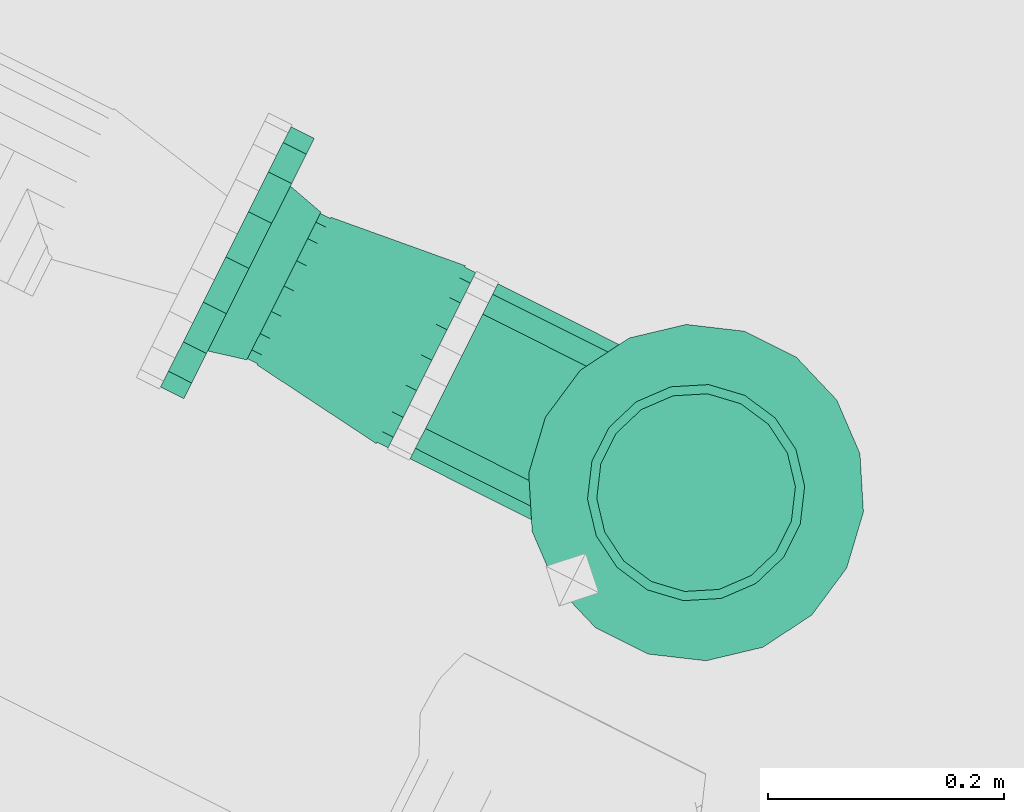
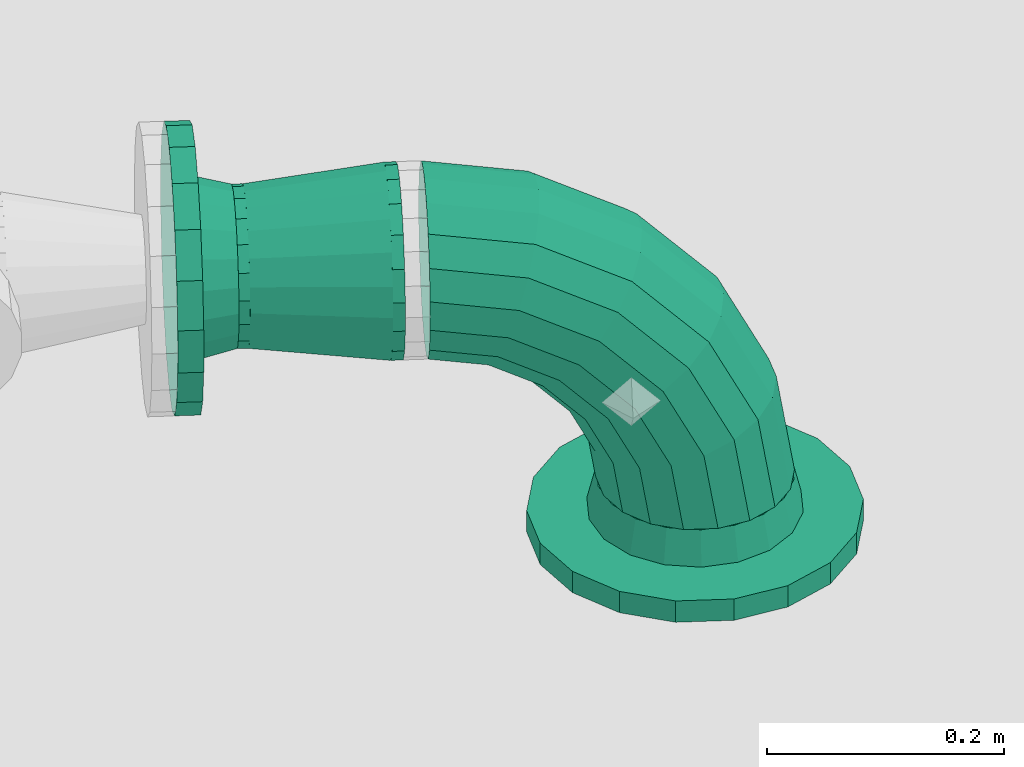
# One storey, part 100 of 206: 3 flow fittings, 1 flow segment.
"""IFC2X3 building model written with IfcOpenShell, lengths in metres."""

import ifcopenshell
import ifcopenshell.guid

model = None  # the IFC model being written
_history = None  # IfcOwnerHistory: only IFC2X3 demands one
_inside = {}  # id of a spatial element -> (the spatial element, [elements in it])
_under = {}  # id of a project, library or spatial element -> (it, [spatial elements below it])
_declared = {}  # id of a project -> (the project, [libraries it declares])
_typed = {}  # id of a type object -> (the type object, [elements of that type])
_made_of = {}  # id of a material, layer set ... -> (it, [elements and type objects made of it])


def new_model(schema):
    """Start an empty IFC model of exactly this schema.

    Asked for "IFC4X3", IfcOpenShell would pick the latest addendum, in which some entities
    have other attributes; the version numbers below select the first issue.
    IFC2X3 requires an IfcOwnerHistory on every rooted entity: one is made here for all.
    """
    global model, _history
    if schema == "IFC4X3":
        model = ifcopenshell.file(schema_version=(4, 3, 0, 0))
    else:
        model = ifcopenshell.file(schema=schema)
    _inside.clear()
    _under.clear()
    _declared.clear()
    _typed.clear()
    _made_of.clear()
    _history = None
    if model.schema == "IFC2X3":
        org = make("IfcOrganization", Name="unknown")
        user = make(
            "IfcPersonAndOrganization",
            ThePerson=make("IfcPerson", FamilyName="unknown"),
            TheOrganization=org,
        )
        app = make(
            "IfcApplication",
            ApplicationDeveloper=org,
            Version="unknown",
            ApplicationFullName="unknown",
            ApplicationIdentifier="unknown",
        )
        _history = make(
            "IfcOwnerHistory",
            OwningUser=user,
            OwningApplication=app,
            ChangeAction="ADDED",
            CreationDate=0,
        )
    return model


def make(cls, **values):
    """One entity of the class cls with the attributes given. An attribute that is None is left unset."""
    return model.create_entity(
        cls, **{name: value for name, value in values.items() if value is not None}
    )


def rooted(cls, **values):
    """An entity with a GlobalId (a new one), such as an element, a storey or a relation."""
    return make(cls, GlobalId=ifcopenshell.guid.new(), OwnerHistory=_history, **values)


def si_unit(unit_type, name, prefix=None):
    """IfcSIUnit, for example si_unit("LENGTHUNIT", "METRE", prefix="MILLI")."""
    return make("IfcSIUnit", UnitType=unit_type, Prefix=prefix, Name=name)


def derived_unit(unit_type, elements):
    """IfcDerivedUnit: a product of units, each with its exponent."""
    return make(
        "IfcDerivedUnit",
        Elements=[
            make("IfcDerivedUnitElement", Unit=unit, Exponent=power)
            for unit, power in elements
        ],
        UnitType=unit_type,
    )


def assignment(units):
    """IfcUnitAssignment: the units of a project."""
    return None if units is None else make("IfcUnitAssignment", Units=units)


def point(xyz):
    """IfcCartesianPoint."""
    return None if xyz is None else make("IfcCartesianPoint", Coordinates=xyz)


def direction(xyz):
    """IfcDirection."""
    return None if xyz is None else make("IfcDirection", DirectionRatios=xyz)


def frame(location, z_axis=None, x_axis=None):
    """IfcAxis2Placement3D, a coordinate frame: its origin and axes. An axis left out is left unset."""
    return make(
        "IfcAxis2Placement3D",
        Location=point(location),
        Axis=direction(z_axis),
        RefDirection=direction(x_axis),
    )


def origin():
    """The frame at (0, 0, 0) with its axes left unset."""
    return frame((0.0, 0.0, 0.0))


def place(relative_to, where):
    """IfcLocalPlacement: puts the frame where relative to a parent placement (None: the world)."""
    return make(
        "IfcLocalPlacement", PlacementRelTo=relative_to, RelativePlacement=where
    )


def context(
    kind, dimensions, precision=None, world=None, true_north=None, identifier=None
):
    """IfcGeometricRepresentationContext, for example the 3D "Model" context."""
    return make(
        "IfcGeometricRepresentationContext",
        ContextIdentifier=identifier,
        ContextType=kind,
        CoordinateSpaceDimension=dimensions,
        Precision=precision,
        WorldCoordinateSystem=world,
        TrueNorth=true_north,
    )


def subcontext(parent, identifier, kind, view, scale=None):
    """IfcGeometricRepresentationSubContext, for example "Body" below "Model"."""
    return make(
        "IfcGeometricRepresentationSubContext",
        ContextIdentifier=identifier,
        ContextType=kind,
        ParentContext=parent,
        TargetScale=scale,
        TargetView=view,
    )


def project(units=None, contexts=None):
    """IfcProject with its units and contexts."""
    return rooted(
        "IfcProject",
        Name="project",
        RepresentationContexts=contexts,
        UnitsInContext=assignment(units),
    )


def spatial(cls, under=None, at=None, **own):
    """A site, building, storey or space (cls), placed at a placement, below another one or the project."""
    s = rooted(cls, ObjectPlacement=at, **own)
    if under is not None:
        _under.setdefault(under.id(), (under, []))[1].append(s)
    return s


def faces_of(points, faces, orient=None, outer=None):
    """IfcFace entities. A face is a list of loops; a loop is a list of indices into points, from 0.

    orient and outer hold one flag for each loop. By default every Orientation is true, the
    first loop of a face is its IfcFaceOuterBound and the others are IfcFaceBound.
    """
    made = []
    for i, loops in enumerate(faces):
        bounds = []
        for j, loop in enumerate(loops):
            is_outer = j == 0 if outer is None else outer[i][j]
            bounds.append(
                make(
                    "IfcFaceOuterBound" if is_outer else "IfcFaceBound",
                    Bound=make("IfcPolyLoop", Polygon=[points[k] for k in loop]),
                    Orientation=True if orient is None else orient[i][j],
                )
            )
        made.append(make("IfcFace", Bounds=bounds))
    return made


def face_set(faces, orient=None, outer=None):
    """The faces of one IfcConnectedFaceSet. surface_model builds it on its shared points."""
    return ("IfcConnectedFaceSet", faces, orient, outer)


def surface_model(cls, points, shells):
    """IfcFaceBasedSurfaceModel or IfcShellBasedSurfaceModel (cls): surfaces that need not close."""
    shared = [point(p) for p in points]
    made = [make(c, CfsFaces=faces_of(shared, fs, o, b)) for c, fs, o, b in shells]
    if cls == "IfcFaceBasedSurfaceModel":
        return make(cls, FbsmFaces=made)
    return make(cls, SbsmBoundary=made)


def shape(context_of_items, identifier, shape_type, items):
    """IfcShapeRepresentation: the items that make up one representation, for example the "Body"."""
    return make(
        "IfcShapeRepresentation",
        ContextOfItems=context_of_items,
        RepresentationIdentifier=identifier,
        RepresentationType=shape_type,
        Items=items,
    )


def source(mapping_origin, context_of_items, identifier, shape_type, items):
    """IfcRepresentationMap: a shape defined once, which mapped items show again and again."""
    return make(
        "IfcRepresentationMap",
        MappingOrigin=mapping_origin,
        MappedRepresentation=shape(context_of_items, identifier, shape_type, items),
    )


def transform(
    local_origin,
    x_axis=None,
    y_axis=None,
    z_axis=None,
    scale=None,
    scale2=None,
    scale3=None,
    uniform=True,
):
    """IfcCartesianTransformationOperator3D, or its non-uniform kind. x_axis, y_axis, z_axis: its Axis1, 2, 3."""
    if uniform:
        return make(
            "IfcCartesianTransformationOperator3D",
            Axis1=direction(x_axis),
            Axis2=direction(y_axis),
            LocalOrigin=point(local_origin),
            Scale=scale,
            Axis3=direction(z_axis),
        )
    return make(
        "IfcCartesianTransformationOperator3DnonUniform",
        Axis1=direction(x_axis),
        Axis2=direction(y_axis),
        LocalOrigin=point(local_origin),
        Scale=scale,
        Axis3=direction(z_axis),
        Scale2=scale2,
        Scale3=scale3,
    )


def mapped(mapping_source, mapping_target):
    """IfcMappedItem: shows the shape of a source again, moved by a transform."""
    return make(
        "IfcMappedItem", MappingSource=mapping_source, MappingTarget=mapping_target
    )


def material(Name=None, Category=None):
    """IfcMaterial."""
    return make("IfcMaterial", Name=Name, Category=Category)


def made_of(thing, what):
    """Note that an element or type object is made of a material, layer set ...; save() writes the relation."""
    if what is not None:
        _made_of.setdefault(what.id(), (what, []))[1].append(thing)
    return thing


def type_object(cls, material=None, **own):
    """A type object (cls), such as IfcWallType, which elements share."""
    return made_of(rooted(cls, **own), material)


def type_shapes(of_type, sources):
    """Give a type object the sources (RepresentationMaps) that its elements show as mapped items."""
    of_type.RepresentationMaps = sources


def element(
    cls,
    number,
    at=None,
    inside=None,
    cuts=None,
    type_object=None,
    material=None,
    context=None,
    identifier="Body",
    shape_type=None,
    held_by="IfcProductDefinitionShape",
    body=None,
    shapes=None,
    **own,
):
    """One element of the class cls, such as IfcWall. Its Tag is "e" and its number.

    at: its placement. inside: the storey or other place that contains it. cuts: it is an
    opening in that element (IfcRelVoidsElement). A single representation is given by context,
    identifier, shape_type and body (its items); several are given by shapes. held_by: the class
    of the entity that holds the representations. save() writes the other relations.
    """
    e = rooted(cls, Tag="e%d" % number, ObjectPlacement=at, **own)
    if body is not None:
        shapes = [shape(context, identifier, shape_type, body)]
    if shapes is not None:
        e.Representation = make(held_by, Representations=shapes)
    if inside is not None:
        _inside.setdefault(inside.id(), (inside, []))[1].append(e)
    if cuts is not None:
        rooted(
            "IfcRelVoidsElement", RelatingBuildingElement=cuts, RelatedOpeningElement=e
        )
    if type_object is not None:
        _typed.setdefault(type_object.id(), (type_object, []))[1].append(e)
    return made_of(e, material)


def aggregate(whole, parts):
    """IfcRelAggregates: a whole, such as a stair, and the parts it consists of."""
    return rooted("IfcRelAggregates", RelatingObject=whole, RelatedObjects=parts)


def save(model, path):
    """Write the relations noted so far, then the file.

    IfcRelAggregates (storeys below a building ...), IfcRelContainedInSpatialStructure (elements
    in a storey), IfcRelDefinesByType, IfcRelAssociatesMaterial and IfcRelDeclares: one each for
    every whole, place, type object, material and project.
    """
    for whole, parts in _under.values():
        aggregate(whole, parts)
    for where, things in _inside.values():
        rooted(
            "IfcRelContainedInSpatialStructure",
            RelatedElements=things,
            RelatingStructure=where,
        )
    for kind, things in _typed.values():
        rooted("IfcRelDefinesByType", RelatedObjects=things, RelatingType=kind)
    for what, things in _made_of.values():
        rooted("IfcRelAssociatesMaterial", RelatedObjects=things, RelatingMaterial=what)
    for by, libraries in _declared.values():
        rooted("IfcRelDeclares", RelatingContext=by, RelatedDefinitions=libraries)
    model.write(path)


model = new_model("IFC2X3")

# Units and contexts
model_context = context("Model", 3, precision=5.2338327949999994e-05, world=origin(), true_north=direction((0.0, 1.0)))
body_context = subcontext(model_context, "Body", "Model", "MODEL_VIEW")
ifc_project = project(units=[si_unit("LENGTHUNIT", "METRE"), si_unit("AREAUNIT", "SQUARE_METRE"), si_unit("VOLUMEUNIT", "CUBIC_METRE"), si_unit("MASSUNIT", "GRAM", prefix="KILO"), si_unit("PLANEANGLEUNIT", "RADIAN"), derived_unit("THERMALTRANSMITTANCEUNIT", [(si_unit("MASSUNIT", "GRAM", prefix="KILO"), 1), (si_unit("THERMODYNAMICTEMPERATUREUNIT", "KELVIN"), -1), (si_unit("TIMEUNIT", "SECOND"), -3)])], contexts=[model_context])

# Site, building, storey
site_placement = place(None, frame((0.0, 0.0, 0.0), z_axis=(0.0, 0.0, 1.0), x_axis=(0.8939966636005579, -0.4480736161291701, 0.0)))
site = spatial("IfcSite", under=ifc_project, at=site_placement, Name="Default", CompositionType="ELEMENT")
building_placement = place(site_placement, origin())
building = spatial("IfcBuilding", under=site, at=building_placement, CompositionType="ELEMENT")
storey_placement = place(building_placement, origin())
storey = spatial("IfcBuildingStorey", under=building, at=storey_placement, Name="Erdgeschoss", CompositionType="ELEMENT", Elevation=0.0)

# Flow fitting
ifc_material = material(Name="IfcSurfaceStyle #1741")
distribution_element_type_1 = type_object("IfcDistributionElementType", Name="Flansch 303653:Flansch 303653", material=ifc_material)
shared_shape_1 = source(origin(), body_context, "Body", "SurfaceModel", [
    surface_model("IfcFaceBasedSurfaceModel", [(21.298447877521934, 5.395961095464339, 2.07), (21.307041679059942, 5.347223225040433, 2.07), (21.307041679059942, 5.347223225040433, 2.0919999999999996), (21.298447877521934, 5.395961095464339, 2.0919999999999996), (21.331786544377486, 5.304363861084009, 2.07), (21.331786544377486, 5.304363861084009, 2.0919999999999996), (21.369697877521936, 5.272552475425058, 2.07), (21.369697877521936, 5.272552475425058, 2.0919999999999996), (21.416203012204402, 5.2556259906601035, 2.07), (21.416203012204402, 5.2556259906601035, 2.0919999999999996), (21.465692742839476, 5.255625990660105, 2.07), (21.465692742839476, 5.255625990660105, 2.0919999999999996), (21.51219787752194, 5.272552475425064, 2.07), (21.51219787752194, 5.272552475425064, 2.0919999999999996), (21.55010921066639, 5.304363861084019, 2.07), (21.55010921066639, 5.304363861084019, 2.0919999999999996), (21.57485407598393, 5.347223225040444, 2.07), (21.57485407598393, 5.347223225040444, 2.0919999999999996), (21.58344787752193, 5.395961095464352, 2.07), (21.58344787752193, 5.395961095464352, 2.0919999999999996), (21.57485407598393, 5.444698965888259, 2.07), (21.57485407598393, 5.444698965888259, 2.0919999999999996), (21.55010921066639, 5.487558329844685, 2.07), (21.55010921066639, 5.487558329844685, 2.0919999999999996), (21.51219787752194, 5.519369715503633, 2.07), (21.51219787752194, 5.519369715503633, 2.0919999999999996), (21.465692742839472, 5.536296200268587, 2.07), (21.465692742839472, 5.536296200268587, 2.0919999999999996), (21.4162030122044, 5.536296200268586, 2.07), (21.4162030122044, 5.536296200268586, 2.0919999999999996), (21.369697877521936, 5.519369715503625, 2.07), (21.369697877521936, 5.519369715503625, 2.0919999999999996), (21.331786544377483, 5.487558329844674, 2.07), (21.331786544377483, 5.487558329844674, 2.0919999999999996), (21.30704167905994, 5.444698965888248, 2.07), (21.30704167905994, 5.444698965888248, 2.0919999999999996), (21.440947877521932, 5.3959610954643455, 2.091999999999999), (21.440947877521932, 5.303961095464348, 2.091999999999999), (21.472413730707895, 5.309509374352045, 2.091999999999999), (21.46972887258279, 5.316885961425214, 2.1249999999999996), (21.440947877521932, 5.311811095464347, 2.125), (21.5000843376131, 5.325485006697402, 2.0919999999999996), (21.495038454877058, 5.331498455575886, 2.125), (21.5206222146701, 5.349961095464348, 2.092), (21.5138239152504, 5.353886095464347, 2.1250000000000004), (21.531550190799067, 5.37998546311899, 2.0920000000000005), (21.523819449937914, 5.381348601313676, 2.125000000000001), (21.531550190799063, 5.411936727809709, 2.091999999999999), (21.523819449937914, 5.410573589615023, 2.1249999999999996), (21.5206222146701, 5.44196109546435, 2.0919999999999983), (21.513823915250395, 5.438036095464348, 2.1249999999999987), (21.500084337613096, 5.466437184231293, 2.0919999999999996), (21.495038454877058, 5.460423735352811, 2.125), (21.472413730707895, 5.482412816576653, 2.0919999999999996), (21.46972887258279, 5.475036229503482, 2.125), (21.44094787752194, 5.487961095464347, 2.0919999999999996), (21.440947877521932, 5.480111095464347, 2.125), (21.409482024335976, 5.482412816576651, 2.0919999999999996), (21.41216688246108, 5.4750362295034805, 2.125), (21.38181141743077, 5.466437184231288, 2.0919999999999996), (21.386857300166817, 5.460423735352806, 2.125), (21.361273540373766, 5.441961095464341, 2.0919999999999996), (21.368071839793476, 5.438036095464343, 2.125), (21.350345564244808, 5.4119367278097, 2.0919999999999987), (21.358076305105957, 5.410573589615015, 2.124999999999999), (21.350345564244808, 5.379985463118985, 2.091999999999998), (21.358076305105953, 5.38134860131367, 2.1249999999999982), (21.361273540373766, 5.349961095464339, 2.0920000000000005), (21.368071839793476, 5.353886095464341, 2.125000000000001), (21.38181141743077, 5.325485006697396, 2.0920000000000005), (21.386857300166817, 5.331498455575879, 2.125000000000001), (21.409482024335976, 5.30950937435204, 2.0919999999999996), (21.412166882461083, 5.31688596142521, 2.125)], [face_set([[[0, 1, 2, 3]], [[1, 4, 5, 2]], [[4, 6, 7, 5]], [[6, 8, 9, 7]], [[8, 10, 11, 9]], [[10, 12, 13, 11]], [[12, 14, 15, 13]], [[14, 16, 17, 15]], [[16, 18, 19, 17]], [[18, 20, 21, 19]], [[20, 22, 23, 21]], [[22, 24, 25, 23]], [[24, 26, 27, 25]], [[26, 28, 29, 27]], [[28, 30, 31, 29]], [[30, 32, 33, 31]], [[32, 34, 35, 33]], [[34, 0, 3, 35]], [[36, 35, 3]], [[36, 33, 35]], [[36, 31, 33]], [[36, 29, 31]], [[36, 27, 29]], [[36, 25, 27]], [[36, 23, 25]], [[36, 21, 23]], [[36, 19, 21]], [[36, 17, 19]], [[36, 15, 17]], [[36, 13, 15]], [[36, 11, 13]], [[36, 9, 11]], [[36, 7, 9]], [[36, 5, 7]], [[36, 2, 5]], [[36, 3, 2]], [[37, 38, 39, 40]], [[38, 41, 42, 39]], [[41, 43, 44, 42]], [[43, 45, 46, 44]], [[45, 47, 48, 46]], [[47, 49, 50, 48]], [[49, 51, 52, 50]], [[51, 53, 54, 52]], [[53, 55, 56, 54]], [[55, 57, 58, 56]], [[57, 59, 60, 58]], [[59, 61, 62, 60]], [[61, 63, 64, 62]], [[63, 65, 66, 64]], [[65, 67, 68, 66]], [[67, 69, 70, 68]], [[69, 71, 72, 70]], [[71, 37, 40, 72]]])]),
])
type_shapes(distribution_element_type_1, [shared_shape_1])
flow_fitting_1_placement = place(storey_placement, origin())
element("IfcFlowFitting", 1, at=flow_fitting_1_placement, inside=storey, type_object=distribution_element_type_1, material=ifc_material, Name="Flansch", ObjectType="Flansch", context=body_context, shape_type="MappedRepresentation", body=[
    mapped(shared_shape_1, transform((0.0, 0.0, 0.0), scale=1.0)),
])

# Flow segment
distribution_element_type_2 = type_object("IfcDistributionElementType", Name="Rohrbogen 305384:Rohrbogen 305384", material=ifc_material)
shared_shape_2 = source(origin(), body_context, "Body", "SurfaceModel", [
    surface_model("IfcFaceBasedSurfaceModel", [(21.211947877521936, 5.395961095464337, 2.4381500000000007), (21.211947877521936, 5.367180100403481, 2.433075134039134), (21.307148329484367, 5.367180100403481, 2.417996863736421), (21.30871654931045, 5.3959610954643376, 2.422823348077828), (21.393029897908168, 5.367180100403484, 2.374238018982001), (21.39601282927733, 5.39596109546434, 2.3783436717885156), (21.46118589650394, 5.367180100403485, 2.3060820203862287), (21.46529154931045, 5.395961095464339, 2.309064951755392), (21.504944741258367, 5.367180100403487, 2.2202004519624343), (21.509771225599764, 5.395961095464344, 2.2217686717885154), (21.52002301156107, 5.367180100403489, 2.1250000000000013), (21.525097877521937, 5.395961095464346, 2.1250000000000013), (21.211947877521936, 5.341870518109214, 2.4184626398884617), (21.30263282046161, 5.341870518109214, 2.404099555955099), (21.384440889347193, 5.341870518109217, 2.362416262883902), (21.44936414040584, 5.341870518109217, 2.2974930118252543), (21.49104743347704, 5.341870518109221, 2.2156849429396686), (21.5054105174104, 5.341870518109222, 2.125000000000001), (21.211947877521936, 5.323085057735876, 2.3960750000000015), (21.295714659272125, 5.323085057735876, 2.3828076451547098), (21.37128176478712, 5.32308505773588, 2.344304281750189), (21.43125215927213, 5.323085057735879, 2.2843338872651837), (21.469755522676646, 5.32308505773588, 2.2087667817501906), (21.483022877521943, 5.3230850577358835, 2.124999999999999), (21.211947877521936, 5.313089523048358, 2.3686124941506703), (21.287228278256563, 5.31308952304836, 2.356689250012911), (21.35513970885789, 5.313089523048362, 2.32208664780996), (21.409034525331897, 5.313089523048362, 2.268191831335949), (21.44363712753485, 5.313089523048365, 2.200280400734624), (21.45556037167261, 5.313089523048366, 2.124999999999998), (21.211947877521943, 5.313089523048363, 2.3393875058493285), (21.27819726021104, 5.313089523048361, 2.3288946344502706), (21.337961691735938, 5.313089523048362, 2.298443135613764), (21.385391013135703, 5.313089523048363, 2.251013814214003), (21.415842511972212, 5.313089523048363, 2.191249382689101), (21.426335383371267, 5.313089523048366, 2.1250000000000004), (21.211947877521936, 5.323085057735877, 2.311925), (21.269710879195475, 5.323085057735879, 2.302776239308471), (21.32181963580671, 5.323085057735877, 2.2762255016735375), (21.363173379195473, 5.32308505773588, 2.234871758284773), (21.38972411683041, 5.32308505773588, 2.1827630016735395), (21.398872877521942, 5.323085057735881, 2.1250000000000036), (21.211947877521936, 5.341870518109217, 2.289537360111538), (21.262792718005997, 5.341870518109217, 2.2814843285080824), (21.30866051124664, 5.34187051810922, 2.2581135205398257), (21.345061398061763, 5.3418705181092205, 2.221712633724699), (21.368432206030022, 5.341870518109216, 2.1758448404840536), (21.376485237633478, 5.341870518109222, 2.1249999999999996), (21.211947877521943, 5.367180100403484, 2.274924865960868), (21.258277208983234, 5.367180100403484, 2.2675870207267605), (21.300071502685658, 5.367180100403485, 2.246291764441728), (21.33323964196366, 5.367180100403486, 2.2131236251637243), (21.354534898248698, 5.367180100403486, 2.1713293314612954), (21.361872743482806, 5.367180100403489, 2.1250000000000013), (21.211947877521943, 5.395961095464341, 2.2698500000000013), (21.25670898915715, 5.39596109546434, 2.2627605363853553), (21.2970885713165, 5.395961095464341, 2.2421861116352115), (21.329133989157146, 5.395961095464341, 2.210140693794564), (21.34970841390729, 5.395961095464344, 2.16976111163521), (21.356797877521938, 5.3959610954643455, 2.125), (21.211947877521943, 5.4247420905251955, 2.2749248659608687), (21.258277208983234, 5.4247420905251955, 2.267587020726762), (21.300071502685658, 5.4247420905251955, 2.24629176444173), (21.33323964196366, 5.424742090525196, 2.213123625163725), (21.354534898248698, 5.424742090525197, 2.1713293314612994), (21.361872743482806, 5.424742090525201, 2.1250000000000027), (21.211947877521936, 5.450051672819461, 2.2895373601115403), (21.262792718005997, 5.450051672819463, 2.281484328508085), (21.30866051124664, 5.450051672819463, 2.2581135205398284), (21.345061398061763, 5.450051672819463, 2.2217126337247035), (21.368432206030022, 5.450051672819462, 2.1758448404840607), (21.376485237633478, 5.450051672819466, 2.1250000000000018), (21.211947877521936, 5.4688371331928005, 2.3119250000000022), (21.269710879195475, 5.4688371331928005, 2.302776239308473), (21.32181963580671, 5.4688371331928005, 2.2762255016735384), (21.363173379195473, 5.468837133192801, 2.2348717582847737), (21.38972411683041, 5.468837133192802, 2.1827630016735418), (21.398872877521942, 5.468837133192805, 2.125000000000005), (21.211947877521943, 5.478832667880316, 2.339387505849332), (21.27819726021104, 5.478832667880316, 2.328894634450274), (21.337961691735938, 5.478832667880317, 2.298443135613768), (21.385391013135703, 5.4788326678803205, 2.251013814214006), (21.415842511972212, 5.478832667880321, 2.191249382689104), (21.426335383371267, 5.478832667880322, 2.125000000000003), (21.211947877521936, 5.478832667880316, 2.3686124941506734), (21.287228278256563, 5.478832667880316, 2.3566892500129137), (21.35513970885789, 5.478832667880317, 2.3220866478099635), (21.409034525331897, 5.478832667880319, 2.2681918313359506), (21.44363712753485, 5.47883266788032, 2.2002804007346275), (21.45556037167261, 5.478832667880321, 2.125000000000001), (21.211947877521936, 5.468837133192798, 2.396075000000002), (21.295714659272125, 5.4688371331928, 2.382807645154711), (21.371281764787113, 5.4688371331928, 2.34430428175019), (21.43125215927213, 5.468837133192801, 2.284333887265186), (21.469755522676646, 5.468837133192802, 2.208766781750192), (21.483022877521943, 5.468837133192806, 2.125000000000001), (21.211947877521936, 5.45005167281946, 2.418462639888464), (21.30263282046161, 5.45005167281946, 2.4040995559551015), (21.384440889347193, 5.450051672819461, 2.362416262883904), (21.44936414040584, 5.450051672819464, 2.2974930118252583), (21.49104743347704, 5.450051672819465, 2.215684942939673), (21.505410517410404, 5.450051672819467, 2.1250000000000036), (21.211947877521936, 5.424742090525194, 2.4330751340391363), (21.307148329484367, 5.424742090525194, 2.4179968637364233), (21.393029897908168, 5.424742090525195, 2.374238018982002), (21.46118589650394, 5.4247420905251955, 2.306082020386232), (21.504944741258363, 5.424742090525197, 2.2202004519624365), (21.52002301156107, 5.424742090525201, 2.1250000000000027)], [face_set([[[0, 1, 2, 3]], [[3, 2, 4, 5]], [[5, 4, 6, 7]], [[7, 6, 8, 9]], [[9, 8, 10, 11]], [[1, 12, 13, 2]], [[2, 13, 14, 4]], [[4, 14, 15, 6]], [[6, 15, 16, 8]], [[8, 16, 17, 10]], [[12, 18, 19, 13]], [[13, 19, 20, 14]], [[14, 20, 21, 15]], [[15, 21, 22, 16]], [[16, 22, 23, 17]], [[18, 24, 25, 19]], [[19, 25, 26, 20]], [[20, 26, 27, 21]], [[21, 27, 28, 22]], [[22, 28, 29, 23]], [[24, 30, 31, 25]], [[25, 31, 32, 26]], [[26, 32, 33, 27]], [[27, 33, 34, 28]], [[28, 34, 35, 29]], [[30, 36, 37, 31]], [[31, 37, 38, 32]], [[32, 38, 39, 33]], [[33, 39, 40, 34]], [[34, 40, 41, 35]], [[36, 42, 43, 37]], [[37, 43, 44, 38]], [[38, 44, 45, 39]], [[39, 45, 46, 40]], [[40, 46, 47, 41]], [[42, 48, 49, 43]], [[43, 49, 50, 44]], [[44, 50, 51, 45]], [[45, 51, 52, 46]], [[46, 52, 53, 47]], [[48, 54, 55, 49]], [[49, 55, 56, 50]], [[50, 56, 57, 51]], [[51, 57, 58, 52]], [[52, 58, 59, 53]], [[54, 60, 61, 55]], [[55, 61, 62, 56]], [[56, 62, 63, 57]], [[57, 63, 64, 58]], [[58, 64, 65, 59]], [[60, 66, 67, 61]], [[61, 67, 68, 62]], [[62, 68, 69, 63]], [[63, 69, 70, 64]], [[64, 70, 71, 65]], [[66, 72, 73, 67]], [[67, 73, 74, 68]], [[68, 74, 75, 69]], [[69, 75, 76, 70]], [[70, 76, 77, 71]], [[72, 78, 79, 73]], [[73, 79, 80, 74]], [[74, 80, 81, 75]], [[75, 81, 82, 76]], [[76, 82, 83, 77]], [[78, 84, 85, 79]], [[79, 85, 86, 80]], [[80, 86, 87, 81]], [[81, 87, 88, 82]], [[82, 88, 89, 83]], [[84, 90, 91, 85]], [[85, 91, 92, 86]], [[86, 92, 93, 87]], [[87, 93, 94, 88]], [[88, 94, 95, 89]], [[90, 96, 97, 91]], [[91, 97, 98, 92]], [[92, 98, 99, 93]], [[93, 99, 100, 94]], [[94, 100, 101, 95]], [[96, 102, 103, 97]], [[97, 103, 104, 98]], [[98, 104, 105, 99]], [[99, 105, 106, 100]], [[100, 106, 107, 101]], [[102, 0, 3, 103]], [[103, 3, 5, 104]], [[104, 5, 7, 105]], [[105, 7, 9, 106]], [[106, 9, 11, 107]]])]),
])
type_shapes(distribution_element_type_2, [shared_shape_2])
flow_segment_placement = place(storey_placement, origin())
element("IfcFlowSegment", 2, at=flow_segment_placement, inside=storey, type_object=distribution_element_type_2, material=ifc_material, Name="Rohrbogen", ObjectType="Rohrbogen", context=body_context, shape_type="MappedRepresentation", body=[
    mapped(shared_shape_2, transform((0.0, 0.0, 0.0), scale=1.0)),
])

# Flow fittings
distribution_element_type_3 = type_object("IfcDistributionElementType", Name="Flansch 309281:Flansch 309281", material=ifc_material)
shared_shape_3 = source(origin(), body_context, "Body", "SurfaceModel", [
    surface_model("IfcFaceBasedSurfaceModel", [(20.99598007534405, 5.395961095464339, 2.479), (20.99598007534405, 5.353208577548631, 2.471461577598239), (21.01798007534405, 5.353208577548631, 2.471461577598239), (21.01798007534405, 5.395961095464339, 2.479), (20.99598007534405, 5.315612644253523, 2.449755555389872), (21.01798007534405, 5.315612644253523, 2.449755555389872), (20.99598007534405, 5.287707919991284, 2.4165000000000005), (21.01798007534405, 5.287707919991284, 2.4165000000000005), (20.99598007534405, 5.272860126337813, 2.3757060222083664), (21.01798007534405, 5.272860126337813, 2.3757060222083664), (20.99598007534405, 5.272860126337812, 2.3322939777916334), (21.01798007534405, 5.272860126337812, 2.3322939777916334), (20.99598007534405, 5.287707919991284, 2.2915000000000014), (21.01798007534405, 5.287707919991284, 2.2915000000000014), (20.99598007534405, 5.315612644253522, 2.2582444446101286), (21.01798007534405, 5.315612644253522, 2.2582444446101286), (20.99598007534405, 5.35320857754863, 2.236538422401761), (21.01798007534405, 5.35320857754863, 2.236538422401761), (20.99598007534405, 5.3959610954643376, 2.2290000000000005), (21.01798007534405, 5.3959610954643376, 2.2290000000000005), (20.99598007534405, 5.438713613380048, 2.236538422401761), (21.01798007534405, 5.438713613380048, 2.236538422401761), (20.99598007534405, 5.476309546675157, 2.2582444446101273), (21.01798007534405, 5.476309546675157, 2.2582444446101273), (20.99598007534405, 5.504214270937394, 2.2915), (21.01798007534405, 5.504214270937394, 2.2915), (20.99598007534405, 5.519062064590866, 2.332293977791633), (21.01798007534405, 5.519062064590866, 2.332293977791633), (20.99598007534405, 5.519062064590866, 2.3757060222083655), (21.01798007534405, 5.519062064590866, 2.3757060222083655), (20.99598007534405, 5.5042142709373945, 2.4165), (21.01798007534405, 5.5042142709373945, 2.4165), (20.99598007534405, 5.476309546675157, 2.44975555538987), (21.01798007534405, 5.476309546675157, 2.44975555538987), (20.99598007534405, 5.4387136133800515, 2.471461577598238), (21.01798007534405, 5.4387136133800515, 2.471461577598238), (21.01798007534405, 5.395961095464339, 2.354), (21.01798007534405, 5.317961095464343, 2.353999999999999), (21.01798007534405, 5.322665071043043, 2.327322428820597), (21.05098007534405, 5.330323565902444, 2.330109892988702), (21.05098007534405, 5.326111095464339, 2.3539999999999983), (21.01798007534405, 5.336209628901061, 2.303862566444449), (21.05098007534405, 5.34245289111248, 2.3091012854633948), (21.01798007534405, 5.356961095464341, 2.286450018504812), (21.05098007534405, 5.361036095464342, 2.2935081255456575), (21.01798007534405, 5.382416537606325, 2.277184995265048), (21.05098007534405, 5.383831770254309, 2.2852111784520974), (21.01798007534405, 5.409505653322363, 2.277184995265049), (21.05098007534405, 5.408090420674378, 2.2852111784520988), (21.01798007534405, 5.4349610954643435, 2.286450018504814), (21.05098007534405, 5.430886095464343, 2.293508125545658), (21.01798007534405, 5.455712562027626, 2.303862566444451), (21.05098007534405, 5.449469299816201, 2.3091012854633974), (21.01798007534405, 5.469257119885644, 2.3273224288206), (21.05098007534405, 5.4615986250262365, 2.3301098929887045), (21.01798007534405, 5.473961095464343, 2.354000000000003), (21.05098007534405, 5.465811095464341, 2.354000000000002), (21.01798007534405, 5.469257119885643, 2.380677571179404), (21.05098007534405, 5.4615986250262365, 2.3778901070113), (21.01798007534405, 5.455712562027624, 2.4041374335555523), (21.05098007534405, 5.449469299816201, 2.398898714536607), (21.01798007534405, 5.434961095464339, 2.421549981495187), (21.05098007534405, 5.43088609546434, 2.4144918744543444), (21.01798007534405, 5.409505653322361, 2.4308150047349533), (21.05098007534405, 5.408090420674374, 2.422788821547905), (21.01798007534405, 5.382416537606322, 2.430815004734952), (21.05098007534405, 5.383831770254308, 2.4227888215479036), (21.01798007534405, 5.35696109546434, 2.4215499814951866), (21.05098007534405, 5.361036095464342, 2.414491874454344), (21.01798007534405, 5.33620962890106, 2.4041374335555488), (21.05098007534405, 5.342452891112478, 2.3988987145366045), (21.01798007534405, 5.32266507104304, 2.3806775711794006), (21.05098007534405, 5.330323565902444, 2.377890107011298)], [face_set([[[0, 1, 2, 3]], [[1, 4, 5, 2]], [[4, 6, 7, 5]], [[6, 8, 9, 7]], [[8, 10, 11, 9]], [[10, 12, 13, 11]], [[12, 14, 15, 13]], [[14, 16, 17, 15]], [[16, 18, 19, 17]], [[18, 20, 21, 19]], [[20, 22, 23, 21]], [[22, 24, 25, 23]], [[24, 26, 27, 25]], [[26, 28, 29, 27]], [[28, 30, 31, 29]], [[30, 32, 33, 31]], [[32, 34, 35, 33]], [[34, 0, 3, 35]], [[36, 35, 3]], [[36, 33, 35]], [[36, 31, 33]], [[36, 29, 31]], [[36, 27, 29]], [[36, 25, 27]], [[36, 23, 25]], [[36, 21, 23]], [[36, 19, 21]], [[36, 17, 19]], [[36, 15, 17]], [[36, 13, 15]], [[36, 11, 13]], [[36, 9, 11]], [[36, 7, 9]], [[36, 5, 7]], [[36, 2, 5]], [[36, 3, 2]], [[37, 38, 39, 40]], [[38, 41, 42, 39]], [[41, 43, 44, 42]], [[43, 45, 46, 44]], [[45, 47, 48, 46]], [[47, 49, 50, 48]], [[49, 51, 52, 50]], [[51, 53, 54, 52]], [[53, 55, 56, 54]], [[55, 57, 58, 56]], [[57, 59, 60, 58]], [[59, 61, 62, 60]], [[61, 63, 64, 62]], [[63, 65, 66, 64]], [[65, 67, 68, 66]], [[67, 69, 70, 68]], [[69, 71, 72, 70]], [[71, 37, 40, 72]]])]),
])
type_shapes(distribution_element_type_3, [shared_shape_3])
flow_fitting_2_placement = place(storey_placement, origin())
element("IfcFlowFitting", 3, at=flow_fitting_2_placement, inside=storey, type_object=distribution_element_type_3, material=ifc_material, Name="Flansch", ObjectType="Flansch", context=body_context, shape_type="MappedRepresentation", body=[
    mapped(shared_shape_3, transform((0.0, 0.0, 0.0), scale=1.0)),
])
distribution_element_type_4 = type_object("IfcDistributionElementType", Name="Übergangsstück 309304:Übergangsstück 309304", material=ifc_material)
shared_shape_4 = source(origin(), body_context, "Body", "SurfaceModel", [
    surface_model("IfcFaceBasedSurfaceModel", [(21.05098007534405, 5.395961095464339, 2.42385), (21.05098007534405, 5.372070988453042, 2.4196375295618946), (21.06050924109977, 5.372070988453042, 2.4196375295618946), (21.06050924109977, 5.395961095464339, 2.42385), (21.05098007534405, 5.351062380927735, 2.4075082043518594), (21.06050924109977, 5.351062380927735, 2.4075082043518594), (21.05098007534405, 5.335469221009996, 2.3889250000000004), (21.06050924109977, 5.335469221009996, 2.3889250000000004), (21.05098007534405, 5.327172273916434, 2.366129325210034), (21.06050924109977, 5.327172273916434, 2.366129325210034), (21.05098007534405, 5.327172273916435, 2.3418706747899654), (21.06050924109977, 5.327172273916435, 2.3418706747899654), (21.05098007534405, 5.335469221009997, 2.319075), (21.06050924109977, 5.335469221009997, 2.319075), (21.05098007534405, 5.3510623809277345, 2.30049179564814), (21.06050924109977, 5.3510623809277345, 2.30049179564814), (21.05098007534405, 5.372070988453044, 2.288362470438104), (21.06050924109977, 5.372070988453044, 2.288362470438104), (21.05098007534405, 5.3959610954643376, 2.28415), (21.06050924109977, 5.3959610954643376, 2.28415), (21.05098007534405, 5.419851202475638, 2.2883624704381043), (21.06050924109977, 5.419851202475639, 2.2883624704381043), (21.05098007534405, 5.440859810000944, 2.3004917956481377), (21.06050924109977, 5.440859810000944, 2.3004917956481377), (21.05098007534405, 5.456452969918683, 2.3190749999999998), (21.06050924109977, 5.456452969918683, 2.3190749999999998), (21.05098007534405, 5.464749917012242, 2.341870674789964), (21.06050924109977, 5.464749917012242, 2.341870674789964), (21.05098007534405, 5.46474991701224, 2.366129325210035), (21.06050924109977, 5.46474991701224, 2.366129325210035), (21.05098007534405, 5.456452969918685, 2.3889250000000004), (21.06050924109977, 5.456452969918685, 2.3889250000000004), (21.05098007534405, 5.440859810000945, 2.407508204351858), (21.06050924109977, 5.440859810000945, 2.407508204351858), (21.05098007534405, 5.4198512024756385, 2.419637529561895), (21.06050924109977, 5.4198512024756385, 2.419637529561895), (21.06050924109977, 5.3261110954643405, 2.354), (21.06050924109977, 5.330323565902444, 2.330109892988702), (21.1805208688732, 5.316885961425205, 2.325219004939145), (21.1805208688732, 5.311811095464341, 2.354), (21.06050924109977, 5.3424528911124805, 2.309101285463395), (21.1805208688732, 5.3314984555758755, 2.299909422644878), (21.06050924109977, 5.361036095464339, 2.293508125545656), (21.1805208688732, 5.353886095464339, 2.2811239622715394), (21.06050924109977, 5.383831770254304, 2.2852111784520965), (21.1805208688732, 5.381348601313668, 2.2711284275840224), (21.06050924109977, 5.408090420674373, 2.2852111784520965), (21.1805208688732, 5.410573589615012, 2.271128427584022), (21.06050924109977, 5.43088609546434, 2.293508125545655), (21.1805208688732, 5.438036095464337, 2.281123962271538), (21.06050924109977, 5.449469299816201, 2.309101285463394), (21.1805208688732, 5.460423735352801, 2.2999094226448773), (21.06050924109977, 5.461598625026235, 2.3301098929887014), (21.1805208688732, 5.475036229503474, 2.3252190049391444), (21.06050924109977, 5.465811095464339, 2.354), (21.1805208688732, 5.480111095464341, 2.3539999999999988), (21.06050924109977, 5.4615986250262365, 2.3778901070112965), (21.1805208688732, 5.475036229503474, 2.382780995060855), (21.06050924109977, 5.449469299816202, 2.3988987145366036), (21.1805208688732, 5.460423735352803, 2.408090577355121), (21.06050924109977, 5.430886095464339, 2.4144918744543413), (21.1805208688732, 5.438036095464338, 2.426876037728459), (21.06050924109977, 5.408090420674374, 2.422788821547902), (21.1805208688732, 5.410573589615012, 2.436871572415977), (21.06050924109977, 5.383831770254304, 2.422788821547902), (21.1805208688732, 5.381348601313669, 2.4368715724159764), (21.06050924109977, 5.361036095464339, 2.4144918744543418), (21.1805208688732, 5.35388609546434, 2.426876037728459), (21.06050924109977, 5.3424528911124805, 2.398898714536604), (21.1805208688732, 5.331498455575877, 2.4080905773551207), (21.06050924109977, 5.330323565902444, 2.3778901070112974), (21.1805208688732, 5.316885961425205, 2.382780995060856), (21.1805208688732, 5.395961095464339, 2.438149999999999), (21.1805208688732, 5.367180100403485, 2.4330751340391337), (21.190980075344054, 5.367180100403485, 2.4330751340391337), (21.190980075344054, 5.395961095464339, 2.438149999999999), (21.1805208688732, 5.341870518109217, 2.418462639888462), (21.190980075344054, 5.341870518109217, 2.418462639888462), (21.1805208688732, 5.32308505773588, 2.396075), (21.190980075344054, 5.32308505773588, 2.396075), (21.1805208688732, 5.313089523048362, 2.3686124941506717), (21.190980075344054, 5.313089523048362, 2.3686124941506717), (21.1805208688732, 5.31308952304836, 2.339387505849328), (21.190980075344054, 5.31308952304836, 2.339387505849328), (21.1805208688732, 5.32308505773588, 2.3119249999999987), (21.190980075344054, 5.32308505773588, 2.3119249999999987), (21.1805208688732, 5.341870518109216, 2.289537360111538), (21.190980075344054, 5.341870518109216, 2.289537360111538), (21.1805208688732, 5.367180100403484, 2.2749248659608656), (21.190980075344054, 5.367180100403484, 2.2749248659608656), (21.1805208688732, 5.3959610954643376, 2.26985), (21.190980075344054, 5.3959610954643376, 2.26985), (21.1805208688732, 5.424742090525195, 2.274924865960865), (21.190980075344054, 5.424742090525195, 2.274924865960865), (21.1805208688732, 5.450051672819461, 2.2895373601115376), (21.190980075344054, 5.450051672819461, 2.2895373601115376), (21.1805208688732, 5.4688371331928, 2.3119249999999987), (21.190980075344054, 5.4688371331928, 2.3119249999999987), (21.1805208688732, 5.478832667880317, 2.339387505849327), (21.190980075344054, 5.478832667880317, 2.339387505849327), (21.1805208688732, 5.478832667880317, 2.3686124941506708), (21.190980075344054, 5.478832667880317, 2.3686124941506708), (21.1805208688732, 5.468837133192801, 2.3960750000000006), (21.190980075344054, 5.468837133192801, 2.3960750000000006), (21.1805208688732, 5.450051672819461, 2.4184626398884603), (21.190980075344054, 5.450051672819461, 2.4184626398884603), (21.1805208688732, 5.4247420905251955, 2.4330751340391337), (21.190980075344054, 5.4247420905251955, 2.4330751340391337)], [face_set([[[0, 1, 2, 3]], [[1, 4, 5, 2]], [[4, 6, 7, 5]], [[6, 8, 9, 7]], [[8, 10, 11, 9]], [[10, 12, 13, 11]], [[12, 14, 15, 13]], [[14, 16, 17, 15]], [[16, 18, 19, 17]], [[18, 20, 21, 19]], [[20, 22, 23, 21]], [[22, 24, 25, 23]], [[24, 26, 27, 25]], [[26, 28, 29, 27]], [[28, 30, 31, 29]], [[30, 32, 33, 31]], [[32, 34, 35, 33]], [[34, 0, 3, 35]], [[36, 37, 38, 39]], [[37, 40, 41, 38]], [[40, 42, 43, 41]], [[42, 44, 45, 43]], [[44, 46, 47, 45]], [[46, 48, 49, 47]], [[48, 50, 51, 49]], [[50, 52, 53, 51]], [[52, 54, 55, 53]], [[54, 56, 57, 55]], [[56, 58, 59, 57]], [[58, 60, 61, 59]], [[60, 62, 63, 61]], [[62, 64, 65, 63]], [[64, 66, 67, 65]], [[66, 68, 69, 67]], [[68, 70, 71, 69]], [[70, 36, 39, 71]], [[72, 73, 74, 75]], [[73, 76, 77, 74]], [[76, 78, 79, 77]], [[78, 80, 81, 79]], [[80, 82, 83, 81]], [[82, 84, 85, 83]], [[84, 86, 87, 85]], [[86, 88, 89, 87]], [[88, 90, 91, 89]], [[90, 92, 93, 91]], [[92, 94, 95, 93]], [[94, 96, 97, 95]], [[96, 98, 99, 97]], [[98, 100, 101, 99]], [[100, 102, 103, 101]], [[102, 104, 105, 103]], [[104, 106, 107, 105]], [[106, 72, 75, 107]]])]),
])
type_shapes(distribution_element_type_4, [shared_shape_4])
flow_fitting_3_placement = place(storey_placement, origin())
element("IfcFlowFitting", 4, at=flow_fitting_3_placement, inside=storey, type_object=distribution_element_type_4, material=ifc_material, Name="Übergangsstück", ObjectType="Übergangsstück", context=body_context, shape_type="MappedRepresentation", body=[
    mapped(shared_shape_4, transform((0.0, 0.0, 0.0), scale=1.0)),
])

save(model, "model.ifc")
